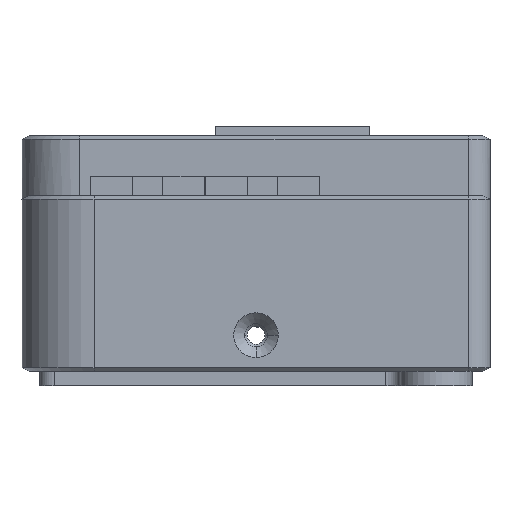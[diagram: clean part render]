
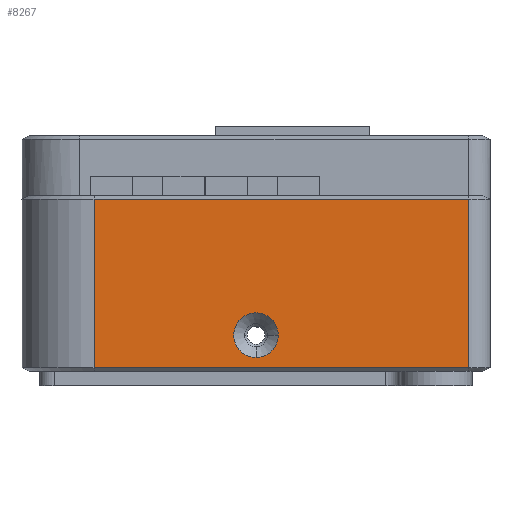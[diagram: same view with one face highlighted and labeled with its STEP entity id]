
A CAD part, left-side view. The second image highlights one B-rep face of the part: STEP entity #8267.
In plain terms, the highlighted planar face has unit normal (-1, 0, 0).
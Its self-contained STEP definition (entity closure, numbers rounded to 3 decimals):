
#1505=CARTESIAN_POINT('',(-60.,-1.,-27.2));
#1506=DIRECTION('',(1.,0.,0.));
#1507=DIRECTION('',(0.,0.,-1.));
#1508=AXIS2_PLACEMENT_3D('',#1505,#1506,#1507);
#1514=CARTESIAN_POINT('',(-60.,-1.,-27.2));
#1515=DIRECTION('',(1.,0.,0.));
#1516=DIRECTION('',(0.,-1.,0.));
#1517=AXIS2_PLACEMENT_3D('',#1514,#1515,#1516);
#1536=DIRECTION('',(0.,0.,-1.));
#1537=VECTOR('',#1536,23.4);
#1538=CARTESIAN_POINT('',(-60.,-30.5,
-8.3));
#1539=LINE('',#1538,#1537);
#1540=DIRECTION('',(0.,1.,0.));
#1541=VECTOR('',#1540,52.);
#1542=CARTESIAN_POINT('',(-60.,-30.5,
-8.3));
#1543=LINE('',#1542,#1541);
#1722=DIRECTION('',(0.,-1.,0.));
#1723=VECTOR('',#1722,52.);
#1724=CARTESIAN_POINT('',(-60.,21.5,
-31.7));
#1725=LINE('',#1724,#1723);
#1739=DIRECTION('',(0.,0.,-1.));
#1740=VECTOR('',#1739,23.4);
#1741=CARTESIAN_POINT('',(-60.,21.5,
-8.3));
#1742=LINE('',#1741,#1740);
#5964=CARTESIAN_POINT('',(-60.,-30.5,-8.3));
#5965=VERTEX_POINT('',#5964);
#5966=CARTESIAN_POINT('',(-60.,-30.5,-31.7));
#5967=VERTEX_POINT('',#5966);
#5968=CARTESIAN_POINT('',(-60.,21.5,
-31.7));
#5969=VERTEX_POINT('',#5968);
#5970=CARTESIAN_POINT('',(-60.,21.5,-8.3));
#5971=VERTEX_POINT('',#5970);
#5972=CARTESIAN_POINT('',(-60.,-1.001,-30.3));
#5973=CARTESIAN_POINT('',(-60.,-4.1,-27.199));
#5974=VERTEX_POINT('',#5972);
#5975=VERTEX_POINT('',#5973);
#8248=CARTESIAN_POINT('',(-60.,31.5,-32.2));
#8249=DIRECTION('',(-1.,0.,0.));
#8250=DIRECTION('',(0.,0.,-1.));
#8251=AXIS2_PLACEMENT_3D('',#8248,#8249,#8250);
#8252=PLANE('',#8251);
#8254=ORIENTED_EDGE('',*,*,#8253,.F.);
#8256=ORIENTED_EDGE('',*,*,#8255,.T.);
#8258=ORIENTED_EDGE('',*,*,#8257,.F.);
#8260=ORIENTED_EDGE('',*,*,#8259,.F.);
#8261=EDGE_LOOP('',(#8254,#8256,#8258,#8260));
#8262=FACE_OUTER_BOUND('',#8261,.F.);
#8263=ORIENTED_EDGE('',*,*,#8215,.F.);
#8264=ORIENTED_EDGE('',*,*,#8230,.F.);
#8265=EDGE_LOOP('',(#8263,#8264));
#8266=FACE_BOUND('',#8265,.F.);
#8267=ADVANCED_FACE('',(#8262,#8266),#8252,.T.);
#1509=CIRCLE('',#1508,3.1);
#1518=CIRCLE('',#1517,3.1);
#8215=EDGE_CURVE('',#5974,#5975,#1509,.T.);
#8230=EDGE_CURVE('',#5975,#5974,#1518,.T.);
#8253=EDGE_CURVE('',#5965,#5971,#1543,.T.);
#8255=EDGE_CURVE('',#5965,#5967,#1539,.T.);
#8257=EDGE_CURVE('',#5969,#5967,#1725,.T.);
#8259=EDGE_CURVE('',#5971,#5969,#1742,.T.);
